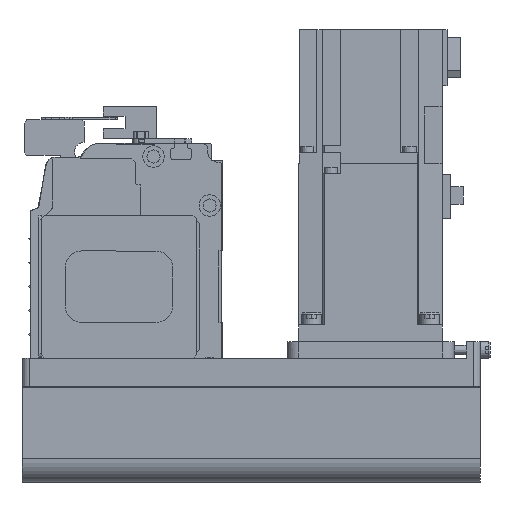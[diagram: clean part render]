
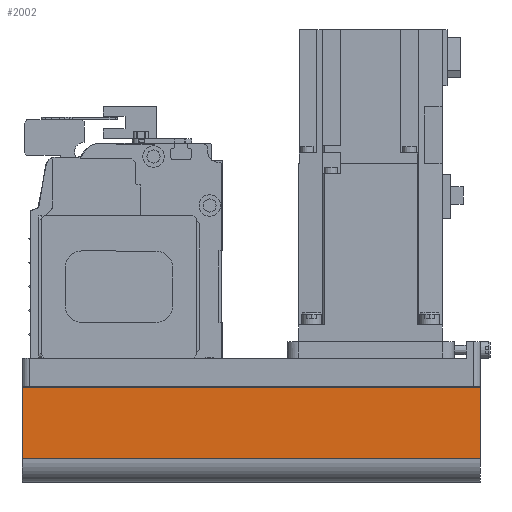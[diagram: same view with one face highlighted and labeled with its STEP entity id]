
A CAD part, left-side view. The second image highlights one B-rep face of the part: STEP entity #2002.
In plain terms, the highlighted planar face has unit normal (-1, 0, 0) as drawn and (0, 1, 0) by its records, which use the part's own axes.
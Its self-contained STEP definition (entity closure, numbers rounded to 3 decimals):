
#2002 = ADVANCED_FACE( '', ( #4301 ), #4302, .T. );
#4301 = FACE_OUTER_BOUND( '', #6837, .T. );
#4302 = PLANE( '', #6838 );
#6837 = EDGE_LOOP( '', ( #12316, #12317, #12318, #12319 ) );
#6838 = AXIS2_PLACEMENT_3D( '', #12320, #12321, #12322 );
#12316 = ORIENTED_EDGE( '', *, *, #16291, .F. );
#12317 = ORIENTED_EDGE( '', *, *, #16384, .F. );
#12318 = ORIENTED_EDGE( '', *, *, #15734, .T. );
#12319 = ORIENTED_EDGE( '', *, *, #16385, .T. );
#12320 = CARTESIAN_POINT( '', ( -192., 40., -42. ) );
#12321 = DIRECTION( '', ( 0., 1., 0. ) );
#12322 = DIRECTION( '', ( 0., 0., 1. ) );
#15734 = EDGE_CURVE( '', #19288, #17385, #19289, .T. );
#16291 = EDGE_CURVE( '', #20019, #20020, #20021, .T. );
#16384 = EDGE_CURVE( '', #19288, #20019, #20133, .T. );
#16385 = EDGE_CURVE( '', #17385, #20020, #20134, .T. );
#17385 = VERTEX_POINT( '', #21362 );
#19288 = VERTEX_POINT( '', #23893 );
#19289 = LINE( '', #23894, #23895 );
#20019 = VERTEX_POINT( '', #24899 );
#20020 = VERTEX_POINT( '', #24900 );
#20021 = LINE( '', #24901, #24902 );
#20133 = LINE( '', #25047, #25048 );
#20134 = LINE( '', #25049, #25050 );
#21362 = CARTESIAN_POINT( '', ( -192., 40., -12.1 ) );
#23893 = CARTESIAN_POINT( '', ( -192., 40., -42. ) );
#23894 = CARTESIAN_POINT( '', ( -192., 40., -42. ) );
#23895 = VECTOR( '', #27562, 1000. );
#24899 = CARTESIAN_POINT( '', ( 0., 40., -42. ) );
#24900 = CARTESIAN_POINT( '', ( 0., 40., -12.1 ) );
#24901 = CARTESIAN_POINT( '', ( 0., 40., -42. ) );
#24902 = VECTOR( '', #28143, 1000. );
#25047 = CARTESIAN_POINT( '', ( -192., 40., -42. ) );
#25048 = VECTOR( '', #28225, 1000. );
#25049 = CARTESIAN_POINT( '', ( -192., 40., -12.1 ) );
#25050 = VECTOR( '', #28226, 1000. );
#27562 = DIRECTION( '', ( 0., 0., 1. ) );
#28143 = DIRECTION( '', ( 0., 0., 1. ) );
#28225 = DIRECTION( '', ( 1., 0., 0. ) );
#28226 = DIRECTION( '', ( 1., 0., 0. ) );
